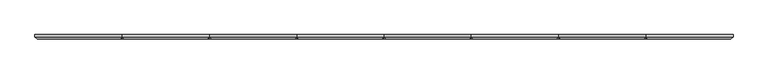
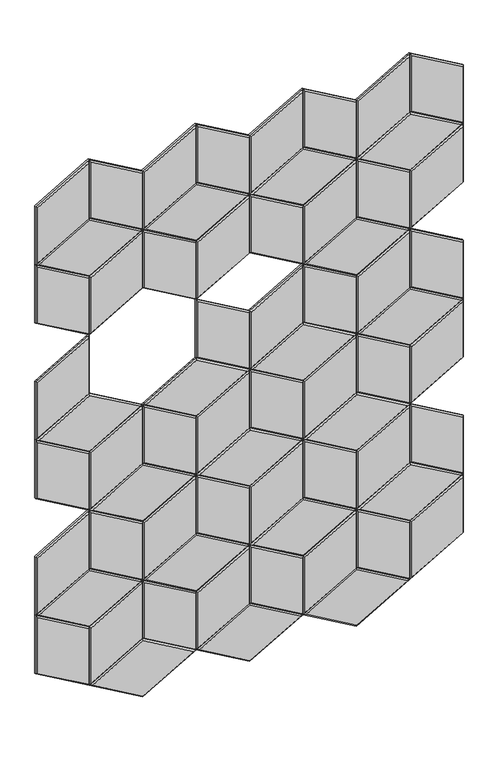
"""IFC4 building model written with IfcOpenShell, lengths in millimetres: proxy geometry, Wall_Cissu 4.3dm."""

from ifc_helpers import new_model, si_unit, origin, place, context, project, spatial, faceted_brep, source, transform, mapped, element, save


def generic_models_3e0c5b4b(model_context):
    return source(origin(), model_context, "Body", "Brep", [
        faceted_brep([(2769.0622415, 6.0, 72.1287686), (2527.0947436, 6.0, 211.8287686), (2769.0622415, 6.0, 351.5287686), (3011.0297393, 6.0, 211.8287686), (2769.0622415, 0.0, 72.1287686), (3011.0297393, 0.0, 211.8287686), (2769.0622415, 0.0, 351.5287686), (2527.0947436, 0.0, 211.8287686), (2769.0622415, -6.0, 344.6005653), (2539.0947436, -6.0, 211.8287686), (2769.0622415, -6.0, 79.0569718), (2999.0297393, -6.0, 211.8287686)], [[[0, 1, 2, 3]], [[4, 0, 3, 5]], [[5, 3, 2, 6]], [[6, 2, 1, 7]], [[7, 1, 0, 4]], [[8, 9, 10, 11]], [[4, 5, 11, 10]], [[5, 6, 8, 11]], [[6, 7, 9, 8]], [[7, 4, 10, 9]]]),
        faceted_brep([(3011.0297393, 6.0, 491.2287686), (3011.0297393, 6.0, 211.8287686), (2769.0622415, 6.0, 351.5287686), (2769.0622415, 6.0, 630.9287686), (3011.0297393, 0.0, 491.2287686), (3011.0297393, 0.0, 211.8287686), (2769.0622415, 0.0, 351.5287686), (2769.0622415, 0.0, 630.9287686), (2775.0622415, -6.0, 354.9928702), (3005.0297393, -6.0, 222.2210734), (3005.0297393, -6.0, 487.764667), (2775.0622415, -6.0, 620.5364637)], [[[0, 1, 2, 3]], [[4, 5, 1, 0]], [[5, 6, 2, 1]], [[6, 7, 3, 2]], [[7, 4, 0, 3]], [[8, 9, 10, 11]], [[4, 10, 9, 5]], [[5, 9, 8, 6]], [[6, 8, 11, 7]], [[7, 11, 10, 4]]]),
        faceted_brep([(2527.0947436, 6.0, 491.2287686), (2769.0622415, 6.0, 630.9287686), (2769.0622415, 6.0, 351.5287686), (2527.0947436, 6.0, 211.8287686), (2527.0947436, 0.0, 491.2287686), (2527.0947436, 0.0, 211.8287686), (2769.0622415, 0.0, 351.5287686), (2769.0622415, 0.0, 630.9287686), (2763.0622415, -6.0, 354.9928702), (2763.0622415, -6.0, 620.5364637), (2533.0947436, -6.0, 487.764667), (2533.0947436, -6.0, 222.2210734)], [[[0, 1, 2, 3]], [[4, 0, 3, 5]], [[5, 3, 2, 6]], [[6, 2, 1, 7]], [[7, 1, 0, 4]], [[8, 9, 10, 11]], [[4, 5, 11, 10]], [[5, 6, 8, 11]], [[6, 7, 9, 8]], [[7, 4, 10, 9]]]),
        faceted_brep([(3011.0297393, 6.0, 491.2287686), (3252.9972371, 6.0, 630.9287686), (3252.9972371, 6.0, 351.5287686), (3011.0297393, 6.0, 211.8287686), (3011.0297393, 0.0, 491.2287686), (3011.0297393, 0.0, 211.8287686), (3252.9972371, 0.0, 351.5287686), (3252.9972371, 0.0, 630.9287686), (3246.9972371, -6.0, 354.9928702), (3246.9972371, -6.0, 620.5364637), (3017.0297393, -6.0, 487.764667), (3017.0297393, -6.0, 222.2210734)], [[[0, 1, 2, 3]], [[4, 0, 3, 5]], [[5, 3, 2, 6]], [[6, 2, 1, 7]], [[7, 1, 0, 4]], [[8, 9, 10, 11]], [[4, 5, 11, 10]], [[5, 6, 8, 11]], [[6, 7, 9, 8]], [[7, 4, 10, 9]]]),
        faceted_brep([(3252.9972371, 6.0, 72.1287686), (3011.0297393, 6.0, 211.8287686), (3252.9972371, 6.0, 351.5287686), (3494.9647349, 6.0, 211.8287686), (3252.9972371, 0.0, 72.1287686), (3011.0297393, 0.0, 211.8287686), (3252.9972371, 0.0, 351.5287686), (3494.9647349, 0.0, 211.8287686), (3252.9972371, -6.0, 344.6005653), (3023.0297393, -6.0, 211.8287686), (3252.9972371, -6.0, 79.0569718), (3482.9647349, -6.0, 211.8287686)], [[[0, 1, 2, 3]], [[4, 5, 1, 0]], [[5, 6, 2, 1]], [[6, 7, 3, 2]], [[7, 4, 0, 3]], [[8, 9, 10, 11]], [[4, 10, 9, 5]], [[5, 9, 8, 6]], [[6, 8, 11, 7]], [[7, 11, 10, 4]]]),
        faceted_brep([(3494.9647349, 6.0, 491.2287686), (3494.9647349, 6.0, 211.8287686), (3252.9972371, 6.0, 351.5287686), (3252.9972371, 6.0, 630.9287686), (3494.9647349, 0.0, 491.2287686), (3494.9647349, 0.0, 211.8287686), (3252.9972371, 0.0, 351.5287686), (3252.9972371, 0.0, 630.9287686), (3258.9972371, -6.0, 354.9928702), (3488.9647349, -6.0, 222.2210734), (3488.9647349, -6.0, 487.764667), (3258.9972371, -6.0, 620.5364637)], [[[0, 1, 2, 3]], [[4, 5, 1, 0]], [[5, 6, 2, 1]], [[6, 7, 3, 2]], [[7, 4, 0, 3]], [[8, 9, 10, 11]], [[4, 10, 9, 5]], [[5, 9, 8, 6]], [[6, 8, 11, 7]], [[7, 11, 10, 4]]]),
        faceted_brep([(3978.8997305, 6.0, 491.2287686), (4220.8672284, 6.0, 630.9287686), (4220.8672284, 6.0, 351.5287686), (3978.8997305, 6.0, 211.8287686), (3978.8997305, 0.0, 491.2287686), (3978.8997305, 0.0, 211.8287686), (4220.8672284, 0.0, 351.5287686), (4220.8672284, 0.0, 630.9287686), (4214.8672284, -6.0, 354.9928702), (4214.8672284, -6.0, 620.5364637), (3984.8997305, -6.0, 487.764667), (3984.8997305, -6.0, 222.2210734)], [[[0, 1, 2, 3]], [[4, 0, 3, 5]], [[5, 3, 2, 6]], [[6, 2, 1, 7]], [[7, 1, 0, 4]], [[8, 9, 10, 11]], [[4, 5, 11, 10]], [[5, 6, 8, 11]], [[6, 7, 9, 8]], [[7, 4, 10, 9]]]),
        faceted_brep([(3736.9322327, 6.0, 72.1287686), (3494.9647349, 6.0, 211.8287686), (3736.9322327, 6.0, 351.5287686), (3978.8997305, 6.0, 211.8287686), (3736.9322327, 0.0, 72.1287686), (3978.8997305, 0.0, 211.8287686), (3736.9322327, 0.0, 351.5287686), (3494.9647349, 0.0, 211.8287686), (3736.9322327, -6.0, 344.6005653), (3506.9647349, -6.0, 211.8287686), (3736.9322327, -6.0, 79.0569718), (3966.8997305, -6.0, 211.8287686)], [[[0, 1, 2, 3]], [[4, 0, 3, 5]], [[5, 3, 2, 6]], [[6, 2, 1, 7]], [[7, 1, 0, 4]], [[8, 9, 10, 11]], [[4, 5, 11, 10]], [[5, 6, 8, 11]], [[6, 7, 9, 8]], [[7, 4, 10, 9]]]),
        faceted_brep([(3978.8997305, 6.0, 491.2287686), (3978.8997305, 6.0, 211.8287686), (3736.9322327, 6.0, 351.5287686), (3736.9322327, 6.0, 630.9287686), (3978.8997305, 0.0, 491.2287686), (3978.8997305, 0.0, 211.8287686), (3736.9322327, 0.0, 351.5287686), (3736.9322327, 0.0, 630.9287686), (3742.9322327, -6.0, 354.9928702), (3972.8997305, -6.0, 222.2210734), (3972.8997305, -6.0, 487.764667), (3742.9322327, -6.0, 620.5364637)], [[[0, 1, 2, 3]], [[4, 5, 1, 0]], [[5, 6, 2, 1]], [[6, 7, 3, 2]], [[7, 4, 0, 3]], [[8, 9, 10, 11]], [[4, 10, 9, 5]], [[5, 9, 8, 6]], [[6, 8, 11, 7]], [[7, 11, 10, 4]]]),
        faceted_brep([(3494.9647349, 6.0, 491.2287686), (3736.9322327, 6.0, 630.9287686), (3736.9322327, 6.0, 351.5287686), (3494.9647349, 6.0, 211.8287686), (3494.9647349, 0.0, 491.2287686), (3494.9647349, 0.0, 211.8287686), (3736.9322327, 0.0, 351.5287686), (3736.9322327, 0.0, 630.9287686), (3730.9322327, -6.0, 354.9928702), (3730.9322327, -6.0, 620.5364637), (3500.9647349, -6.0, 487.764667), (3500.9647349, -6.0, 222.2210734)], [[[0, 1, 2, 3]], [[4, 0, 3, 5]], [[5, 3, 2, 6]], [[6, 2, 1, 7]], [[7, 1, 0, 4]], [[8, 9, 10, 11]], [[4, 5, 11, 10]], [[5, 6, 8, 11]], [[6, 7, 9, 8]], [[7, 4, 10, 9]]]),
        faceted_brep([(2527.0947436, 6.0, 491.2287686), (2527.0947436, 6.0, 211.8287686), (2285.1272458, 6.0, 351.5287686), (2285.1272458, 6.0, 630.9287686), (2527.0947436, 0.0, 491.2287686), (2527.0947436, 0.0, 211.8287686), (2285.1272458, 0.0, 351.5287686), (2285.1272458, 0.0, 630.9287686), (2291.1272458, -6.0, 354.9928702), (2521.0947436, -6.0, 222.2210734), (2521.0947436, -6.0, 487.764667), (2291.1272458, -6.0, 620.5364637)], [[[0, 1, 2, 3]], [[4, 5, 1, 0]], [[5, 6, 2, 1]], [[6, 7, 3, 2]], [[7, 4, 0, 3]], [[8, 9, 10, 11]], [[4, 10, 9, 5]], [[5, 9, 8, 6]], [[6, 8, 11, 7]], [[7, 11, 10, 4]]]),
        faceted_brep([(2527.0576796, 6.037064, 491.1645718), (2285.0901818, 6.037064, 630.8645718), (2527.0576796, 6.037064, 770.5645718), (2769.0251774, 6.037064, 630.8645718), (2527.0576796, 0.037064, 491.1645718), (2769.0251774, 0.037064, 630.8645718), (2527.0576796, 0.037064, 770.5645718), (2285.0901818, 0.037064, 630.8645718), (2527.0576796, -5.962936, 763.6363686), (2297.0901818, -5.962936, 630.8645718), (2527.0576796, -5.962936, 498.0927751), (2757.0251774, -5.962936, 630.8645718)], [[[0, 1, 2, 3]], [[4, 0, 3, 5]], [[5, 3, 2, 6]], [[6, 2, 1, 7]], [[7, 1, 0, 4]], [[8, 9, 10, 11]], [[4, 5, 11, 10]], [[5, 6, 8, 11]], [[6, 7, 9, 8]], [[7, 4, 10, 9]]]),
        faceted_brep([(2769.0251774, 6.037064, 910.2645718), (2769.0251774, 6.037064, 630.8645718), (2527.0576796, 6.037064, 770.5645718), (2527.0576796, 6.037064, 1049.9645718), (2769.0251774, 0.037064, 910.2645718), (2769.0251774, 0.037064, 630.8645718), (2527.0576796, 0.037064, 770.5645718), (2527.0576796, 0.037064, 1049.9645718), (2533.0576796, -5.962936, 774.0286734), (2763.0251774, -5.962936, 641.2568767), (2763.0251774, -5.962936, 906.8004702), (2533.0576796, -5.962936, 1039.572267)], [[[0, 1, 2, 3]], [[4, 5, 1, 0]], [[5, 6, 2, 1]], [[6, 7, 3, 2]], [[7, 4, 0, 3]], [[8, 9, 10, 11]], [[4, 10, 9, 5]], [[5, 9, 8, 6]], [[6, 8, 11, 7]], [[7, 11, 10, 4]]]),
        faceted_brep([(2285.0901818, 6.037064, 910.2645718), (2527.0576796, 6.037064, 1049.9645718), (2527.0576796, 6.037064, 770.5645718), (2285.0901818, 6.037064, 630.8645718), (2285.0901818, 0.037064, 910.2645718), (2285.0901818, 0.037064, 630.8645718), (2527.0576796, 0.037064, 770.5645718), (2527.0576796, 0.037064, 1049.9645718), (2521.0576796, -5.962936, 774.0286734), (2521.0576796, -5.962936, 1039.572267), (2291.0901818, -5.962936, 906.8004702), (2291.0901818, -5.962936, 641.2568767)], [[[0, 1, 2, 3]], [[4, 0, 3, 5]], [[5, 3, 2, 6]], [[6, 2, 1, 7]], [[7, 1, 0, 4]], [[8, 9, 10, 11]], [[4, 5, 11, 10]], [[5, 6, 8, 11]], [[6, 7, 9, 8]], [[7, 4, 10, 9]]]),
        faceted_brep([(2769.0251774, 6.037064, 910.2645718), (3010.9926753, 6.037064, 1049.9645718), (3010.9926753, 6.037064, 770.5645718), (2769.0251774, 6.037064, 630.8645718), (2769.0251774, 0.037064, 910.2645718), (2769.0251774, 0.037064, 630.8645718), (3010.9926753, 0.037064, 770.5645718), (3010.9926753, 0.037064, 1049.9645718), (3004.9926753, -5.962936, 774.0286734), (3004.9926753, -5.962936, 1039.572267), (2775.0251774, -5.962936, 906.8004702), (2775.0251774, -5.962936, 641.2568767)], [[[0, 1, 2, 3]], [[4, 0, 3, 5]], [[5, 3, 2, 6]], [[6, 2, 1, 7]], [[7, 1, 0, 4]], [[8, 9, 10, 11]], [[4, 5, 11, 10]], [[5, 6, 8, 11]], [[6, 7, 9, 8]], [[7, 4, 10, 9]]]),
        faceted_brep([(3010.9926753, 6.037064, 491.1645718), (2769.0251774, 6.037064, 630.8645718), (3010.9926753, 6.037064, 770.5645718), (3252.9601731, 6.037064, 630.8645718), (3010.9926753, 0.037064, 491.1645718), (2769.0251774, 0.037064, 630.8645718), (3010.9926753, 0.037064, 770.5645718), (3252.9601731, 0.037064, 630.8645718), (3010.9926753, -5.962936, 763.6363686), (2781.0251774, -5.962936, 630.8645718), (3010.9926753, -5.962936, 498.0927751), (3240.9601731, -5.962936, 630.8645718)], [[[0, 1, 2, 3]], [[4, 5, 1, 0]], [[5, 6, 2, 1]], [[6, 7, 3, 2]], [[7, 4, 0, 3]], [[8, 9, 10, 11]], [[4, 10, 9, 5]], [[5, 9, 8, 6]], [[6, 8, 11, 7]], [[7, 11, 10, 4]]]),
        faceted_brep([(3252.9601731, 6.037064, 910.2645718), (3252.9601731, 6.037064, 630.8645718), (3010.9926753, 6.037064, 770.5645718), (3010.9926753, 6.037064, 1049.9645718), (3252.9601731, 0.037064, 910.2645718), (3252.9601731, 0.037064, 630.8645718), (3010.9926753, 0.037064, 770.5645718), (3010.9926753, 0.037064, 1049.9645718), (3016.9926753, -5.962936, 774.0286734), (3246.9601731, -5.962936, 641.2568767), (3246.9601731, -5.962936, 906.8004702), (3016.9926753, -5.962936, 1039.572267)], [[[0, 1, 2, 3]], [[4, 5, 1, 0]], [[5, 6, 2, 1]], [[6, 7, 3, 2]], [[7, 4, 0, 3]], [[8, 9, 10, 11]], [[4, 10, 9, 5]], [[5, 9, 8, 6]], [[6, 8, 11, 7]], [[7, 11, 10, 4]]]),
        faceted_brep([(3978.8626665, 6.037064, 491.1645718), (3736.8951687, 6.037064, 630.8645718), (3978.8626665, 6.037064, 770.5645718), (4220.8301644, 6.037064, 630.8645718), (3978.8626665, 0.037064, 491.1645718), (3736.8951687, 0.037064, 630.8645718), (3978.8626665, 0.037064, 770.5645718), (4220.8301644, 0.037064, 630.8645718), (3978.8626665, -5.962936, 763.6363686), (3748.8951687, -5.962936, 630.8645718), (3978.8626665, -5.962936, 498.0927751), (4208.8301644, -5.962936, 630.8645718)], [[[0, 1, 2, 3]], [[4, 5, 1, 0]], [[5, 6, 2, 1]], [[6, 7, 3, 2]], [[7, 4, 0, 3]], [[8, 9, 10, 11]], [[4, 10, 9, 5]], [[5, 9, 8, 6]], [[6, 8, 11, 7]], [[7, 11, 10, 4]]]),
        faceted_brep([(3736.8951687, 6.037064, 910.2645718), (3978.8626665, 6.037064, 1049.9645718), (3978.8626665, 6.037064, 770.5645718), (3736.8951687, 6.037064, 630.8645718), (3736.8951687, 0.037064, 910.2645718), (3736.8951687, 0.037064, 630.8645718), (3978.8626665, 0.037064, 770.5645718), (3978.8626665, 0.037064, 1049.9645718), (3972.8626665, -5.962936, 774.0286734), (3972.8626665, -5.962936, 1039.572267), (3742.8951687, -5.962936, 906.8004702), (3742.8951687, -5.962936, 641.2568767)], [[[0, 1, 2, 3]], [[4, 0, 3, 5]], [[5, 3, 2, 6]], [[6, 2, 1, 7]], [[7, 1, 0, 4]], [[8, 9, 10, 11]], [[4, 5, 11, 10]], [[5, 6, 8, 11]], [[6, 7, 9, 8]], [[7, 4, 10, 9]]]),
        faceted_brep([(4220.8301644, 6.037064, 910.2645718), (4220.8301644, 6.037064, 630.8645718), (3978.8626665, 6.037064, 770.5645718), (3978.8626665, 6.037064, 1049.9645718), (4220.8301644, 0.037064, 910.2645718), (4220.8301644, 0.037064, 630.8645718), (3978.8626665, 0.037064, 770.5645718), (3978.8626665, 0.037064, 1049.9645718), (3984.8626665, -5.962936, 774.0286734), (4214.8301644, -5.962936, 641.2568767), (4214.8301644, -5.962936, 906.8004702), (3984.8626665, -5.962936, 1039.572267)], [[[0, 1, 2, 3]], [[4, 5, 1, 0]], [[5, 6, 2, 1]], [[6, 7, 3, 2]], [[7, 4, 0, 3]], [[8, 9, 10, 11]], [[4, 10, 9, 5]], [[5, 9, 8, 6]], [[6, 8, 11, 7]], [[7, 11, 10, 4]]]),
        faceted_brep([(3494.9276709, 6.037064, 491.1645718), (3252.9601731, 6.037064, 630.8645718), (3494.9276709, 6.037064, 770.5645718), (3736.8951687, 6.037064, 630.8645718), (3494.9276709, 0.037064, 491.1645718), (3736.8951687, 0.037064, 630.8645718), (3494.9276709, 0.037064, 770.5645718), (3252.9601731, 0.037064, 630.8645718), (3494.9276709, -5.962936, 763.6363686), (3264.9601731, -5.962936, 630.8645718), (3494.9276709, -5.962936, 498.0927751), (3724.8951687, -5.962936, 630.8645718)], [[[0, 1, 2, 3]], [[4, 0, 3, 5]], [[5, 3, 2, 6]], [[6, 2, 1, 7]], [[7, 1, 0, 4]], [[8, 9, 10, 11]], [[4, 5, 11, 10]], [[5, 6, 8, 11]], [[6, 7, 9, 8]], [[7, 4, 10, 9]]]),
        faceted_brep([(3736.8951687, 6.037064, 910.2645718), (3736.8951687, 6.037064, 630.8645718), (3494.9276709, 6.037064, 770.5645718), (3494.9276709, 6.037064, 1049.9645718), (3736.8951687, 0.037064, 910.2645718), (3736.8951687, 0.037064, 630.8645718), (3494.9276709, 0.037064, 770.5645718), (3494.9276709, 0.037064, 1049.9645718), (3500.9276709, -5.962936, 774.0286734), (3730.8951687, -5.962936, 641.2568767), (3730.8951687, -5.962936, 906.8004702), (3500.9276709, -5.962936, 1039.572267)], [[[0, 1, 2, 3]], [[4, 5, 1, 0]], [[5, 6, 2, 1]], [[6, 7, 3, 2]], [[7, 4, 0, 3]], [[8, 9, 10, 11]], [[4, 10, 9, 5]], [[5, 9, 8, 6]], [[6, 8, 11, 7]], [[7, 11, 10, 4]]]),
        faceted_brep([(3252.9601731, 6.037064, 910.2645718), (3494.9276709, 6.037064, 1049.9645718), (3494.9276709, 6.037064, 770.5645718), (3252.9601731, 6.037064, 630.8645718), (3252.9601731, 0.037064, 910.2645718), (3252.9601731, 0.037064, 630.8645718), (3494.9276709, 0.037064, 770.5645718), (3494.9276709, 0.037064, 1049.9645718), (3488.9276709, -5.962936, 774.0286734), (3488.9276709, -5.962936, 1039.572267), (3258.9601731, -5.962936, 906.8004702), (3258.9601731, -5.962936, 641.2568767)], [[[0, 1, 2, 3]], [[4, 0, 3, 5]], [[5, 3, 2, 6]], [[6, 2, 1, 7]], [[7, 1, 0, 4]], [[8, 9, 10, 11]], [[4, 5, 11, 10]], [[5, 6, 8, 11]], [[6, 7, 9, 8]], [[7, 4, 10, 9]]]),
        faceted_brep([(2769.0251774, 6.037064, 910.2645718), (2527.0576796, 6.037064, 1049.9645718), (2769.0251774, 6.037064, 1189.6645718), (3010.9926753, 6.037064, 1049.9645718), (2769.0251774, 0.037064, 910.2645718), (3010.9926753, 0.037064, 1049.9645718), (2769.0251774, 0.037064, 1189.6645718), (2527.0576796, 0.037064, 1049.9645718), (2769.0251774, -5.962936, 1182.7363686), (2539.0576796, -5.962936, 1049.9645718), (2769.0251774, -5.962936, 917.1927751), (2998.9926753, -5.962936, 1049.9645718)], [[[0, 1, 2, 3]], [[4, 0, 3, 5]], [[5, 3, 2, 6]], [[6, 2, 1, 7]], [[7, 1, 0, 4]], [[8, 9, 10, 11]], [[4, 5, 11, 10]], [[5, 6, 8, 11]], [[6, 7, 9, 8]], [[7, 4, 10, 9]]]),
        faceted_brep([(3010.9926753, 6.037064, 1329.3645718), (3010.9926753, 6.037064, 1049.9645718), (2769.0251774, 6.037064, 1189.6645718), (2769.0251774, 6.037064, 1469.0645718), (3010.9926753, 0.037064, 1329.3645718), (3010.9926753, 0.037064, 1049.9645718), (2769.0251774, 0.037064, 1189.6645718), (2769.0251774, 0.037064, 1469.0645718), (2775.0251774, -5.962936, 1193.1286734), (3004.9926753, -5.962936, 1060.3568767), (3004.9926753, -5.962936, 1325.9004702), (2775.0251774, -5.962936, 1458.672267)], [[[0, 1, 2, 3]], [[4, 5, 1, 0]], [[5, 6, 2, 1]], [[6, 7, 3, 2]], [[7, 4, 0, 3]], [[8, 9, 10, 11]], [[4, 10, 9, 5]], [[5, 9, 8, 6]], [[6, 8, 11, 7]], [[7, 11, 10, 4]]]),
        faceted_brep([(2527.0576796, 6.037064, 1329.3645718), (2769.0251774, 6.037064, 1469.0645718), (2769.0251774, 6.037064, 1189.6645718), (2527.0576796, 6.037064, 1049.9645718), (2527.0576796, 0.037064, 1329.3645718), (2527.0576796, 0.037064, 1049.9645718), (2769.0251774, 0.037064, 1189.6645718), (2769.0251774, 0.037064, 1469.0645718), (2763.0251774, -5.962936, 1193.1286734), (2763.0251774, -5.962936, 1458.672267), (2533.0576796, -5.962936, 1325.9004702), (2533.0576796, -5.962936, 1060.3568767)], [[[0, 1, 2, 3]], [[4, 0, 3, 5]], [[5, 3, 2, 6]], [[6, 2, 1, 7]], [[7, 1, 0, 4]], [[8, 9, 10, 11]], [[4, 5, 11, 10]], [[5, 6, 8, 11]], [[6, 7, 9, 8]], [[7, 4, 10, 9]]]),
        faceted_brep([(3010.9926753, 6.037064, 1329.3645718), (3252.9601731, 6.037064, 1469.0645718), (3252.9601731, 6.037064, 1189.6645718), (3010.9926753, 6.037064, 1049.9645718), (3010.9926753, 0.037064, 1329.3645718), (3010.9926753, 0.037064, 1049.9645718), (3252.9601731, 0.037064, 1189.6645718), (3252.9601731, 0.037064, 1469.0645718), (3246.9601731, -5.962936, 1193.1286734), (3246.9601731, -5.962936, 1458.672267), (3016.9926753, -5.962936, 1325.9004702), (3016.9926753, -5.962936, 1060.3568767)], [[[0, 1, 2, 3]], [[4, 0, 3, 5]], [[5, 3, 2, 6]], [[6, 2, 1, 7]], [[7, 1, 0, 4]], [[8, 9, 10, 11]], [[4, 5, 11, 10]], [[5, 6, 8, 11]], [[6, 7, 9, 8]], [[7, 4, 10, 9]]]),
        faceted_brep([(3252.9601731, 6.037064, 910.2645718), (3010.9926753, 6.037064, 1049.9645718), (3252.9601731, 6.037064, 1189.6645718), (3494.9276709, 6.037064, 1049.9645718), (3252.9601731, 0.037064, 910.2645718), (3010.9926753, 0.037064, 1049.9645718), (3252.9601731, 0.037064, 1189.6645718), (3494.9276709, 0.037064, 1049.9645718), (3252.9601731, -5.962936, 1182.7363686), (3022.9926753, -5.962936, 1049.9645718), (3252.9601731, -5.962936, 917.1927751), (3482.9276709, -5.962936, 1049.9645718)], [[[0, 1, 2, 3]], [[4, 5, 1, 0]], [[5, 6, 2, 1]], [[6, 7, 3, 2]], [[7, 4, 0, 3]], [[8, 9, 10, 11]], [[4, 10, 9, 5]], [[5, 9, 8, 6]], [[6, 8, 11, 7]], [[7, 11, 10, 4]]]),
        faceted_brep([(3494.9276709, 6.037064, 1329.3645718), (3494.9276709, 6.037064, 1049.9645718), (3252.9601731, 6.037064, 1189.6645718), (3252.9601731, 6.037064, 1469.0645718), (3494.9276709, 0.037064, 1329.3645718), (3494.9276709, 0.037064, 1049.9645718), (3252.9601731, 0.037064, 1189.6645718), (3252.9601731, 0.037064, 1469.0645718), (3258.9601731, -5.962936, 1193.1286734), (3488.9276709, -5.962936, 1060.3568767), (3488.9276709, -5.962936, 1325.9004702), (3258.9601731, -5.962936, 1458.672267)], [[[0, 1, 2, 3]], [[4, 5, 1, 0]], [[5, 6, 2, 1]], [[6, 7, 3, 2]], [[7, 4, 0, 3]], [[8, 9, 10, 11]], [[4, 10, 9, 5]], [[5, 9, 8, 6]], [[6, 8, 11, 7]], [[7, 11, 10, 4]]]),
        faceted_brep([(3978.8626665, 6.037064, 1329.3645718), (4220.8301644, 6.037064, 1469.0645718), (4220.8301644, 6.037064, 1189.6645718), (3978.8626665, 6.037064, 1049.9645718), (3978.8626665, 0.037064, 1329.3645718), (3978.8626665, 0.037064, 1049.9645718), (4220.8301644, 0.037064, 1189.6645718), (4220.8301644, 0.037064, 1469.0645718), (4214.8301644, -5.962936, 1193.1286734), (4214.8301644, -5.962936, 1458.672267), (3984.8626665, -5.962936, 1325.9004702), (3984.8626665, -5.962936, 1060.3568767)], [[[0, 1, 2, 3]], [[4, 0, 3, 5]], [[5, 3, 2, 6]], [[6, 2, 1, 7]], [[7, 1, 0, 4]], [[8, 9, 10, 11]], [[4, 5, 11, 10]], [[5, 6, 8, 11]], [[6, 7, 9, 8]], [[7, 4, 10, 9]]]),
        faceted_brep([(3736.8951687, 6.037064, 910.2645718), (3494.9276709, 6.037064, 1049.9645718), (3736.8951687, 6.037064, 1189.6645718), (3978.8626665, 6.037064, 1049.9645718), (3736.8951687, 0.037064, 910.2645718), (3978.8626665, 0.037064, 1049.9645718), (3736.8951687, 0.037064, 1189.6645718), (3494.9276709, 0.037064, 1049.9645718), (3736.8951687, -5.962936, 1182.7363686), (3506.9276709, -5.962936, 1049.9645718), (3736.8951687, -5.962936, 917.1927751), (3966.8626665, -5.962936, 1049.9645718)], [[[0, 1, 2, 3]], [[4, 0, 3, 5]], [[5, 3, 2, 6]], [[6, 2, 1, 7]], [[7, 1, 0, 4]], [[8, 9, 10, 11]], [[4, 5, 11, 10]], [[5, 6, 8, 11]], [[6, 7, 9, 8]], [[7, 4, 10, 9]]]),
        faceted_brep([(3978.8626665, 6.037064, 1329.3645718), (3978.8626665, 6.037064, 1049.9645718), (3736.8951687, 6.037064, 1189.6645718), (3736.8951687, 6.037064, 1469.0645718), (3978.8626665, 0.037064, 1329.3645718), (3978.8626665, 0.037064, 1049.9645718), (3736.8951687, 0.037064, 1189.6645718), (3736.8951687, 0.037064, 1469.0645718), (3742.8951687, -5.962936, 1193.1286734), (3972.8626665, -5.962936, 1060.3568767), (3972.8626665, -5.962936, 1325.9004702), (3742.8951687, -5.962936, 1458.672267)], [[[0, 1, 2, 3]], [[4, 5, 1, 0]], [[5, 6, 2, 1]], [[6, 7, 3, 2]], [[7, 4, 0, 3]], [[8, 9, 10, 11]], [[4, 10, 9, 5]], [[5, 9, 8, 6]], [[6, 8, 11, 7]], [[7, 11, 10, 4]]]),
        faceted_brep([(3494.9276709, 6.037064, 1329.3645718), (3736.8951687, 6.037064, 1469.0645718), (3736.8951687, 6.037064, 1189.6645718), (3494.9276709, 6.037064, 1049.9645718), (3494.9276709, 0.037064, 1329.3645718), (3494.9276709, 0.037064, 1049.9645718), (3736.8951687, 0.037064, 1189.6645718), (3736.8951687, 0.037064, 1469.0645718), (3730.8951687, -5.962936, 1193.1286734), (3730.8951687, -5.962936, 1458.672267), (3500.9276709, -5.962936, 1325.9004702), (3500.9276709, -5.962936, 1060.3568767)], [[[0, 1, 2, 3]], [[4, 0, 3, 5]], [[5, 3, 2, 6]], [[6, 2, 1, 7]], [[7, 1, 0, 4]], [[8, 9, 10, 11]], [[4, 5, 11, 10]], [[5, 6, 8, 11]], [[6, 7, 9, 8]], [[7, 4, 10, 9]]]),
        faceted_brep([(2527.0576796, 6.037064, 1329.3645718), (2527.0576796, 6.037064, 1049.9645718), (2285.0901818, 6.037064, 1189.6645718), (2285.0901818, 6.037064, 1469.0645718), (2527.0576796, 0.037064, 1329.3645718), (2527.0576796, 0.037064, 1049.9645718), (2285.0901818, 0.037064, 1189.6645718), (2285.0901818, 0.037064, 1469.0645718), (2291.0901818, -5.962936, 1193.1286734), (2521.0576796, -5.962936, 1060.3568767), (2521.0576796, -5.962936, 1325.9004702), (2291.0901818, -5.962936, 1458.672267)], [[[0, 1, 2, 3]], [[4, 5, 1, 0]], [[5, 6, 2, 1]], [[6, 7, 3, 2]], [[7, 4, 0, 3]], [[8, 9, 10, 11]], [[4, 10, 9, 5]], [[5, 9, 8, 6]], [[6, 8, 11, 7]], [[7, 11, 10, 4]]]),
        faceted_brep([(2527.0576796, 6.037064, 1329.3645718), (2285.0901818, 6.037064, 1469.0645718), (2527.0576796, 6.037064, 1608.7645718), (2769.0251774, 6.037064, 1469.0645718), (2527.0576796, 0.037064, 1329.3645718), (2769.0251774, 0.037064, 1469.0645718), (2527.0576796, 0.037064, 1608.7645718), (2285.0901818, 0.037064, 1469.0645718), (2527.0576796, -5.962936, 1601.8363686), (2297.0901818, -5.962936, 1469.0645718), (2527.0576796, -5.962936, 1336.2927751), (2757.0251774, -5.962936, 1469.0645718)], [[[0, 1, 2, 3]], [[4, 0, 3, 5]], [[5, 3, 2, 6]], [[6, 2, 1, 7]], [[7, 1, 0, 4]], [[8, 9, 10, 11]], [[4, 5, 11, 10]], [[5, 6, 8, 11]], [[6, 7, 9, 8]], [[7, 4, 10, 9]]]),
        faceted_brep([(2285.0901818, 6.037064, 1748.4645718), (2527.0576796, 6.037064, 1888.1645718), (2527.0576796, 6.037064, 1608.7645718), (2285.0901818, 6.037064, 1469.0645718), (2285.0901818, 0.037064, 1748.4645718), (2285.0901818, 0.037064, 1469.0645718), (2527.0576796, 0.037064, 1608.7645718), (2527.0576796, 0.037064, 1888.1645718), (2521.0576796, -5.962936, 1612.2286734), (2521.0576796, -5.962936, 1877.772267), (2291.0901818, -5.962936, 1745.0004702), (2291.0901818, -5.962936, 1479.4568767)], [[[0, 1, 2, 3]], [[4, 0, 3, 5]], [[5, 3, 2, 6]], [[6, 2, 1, 7]], [[7, 1, 0, 4]], [[8, 9, 10, 11]], [[4, 5, 11, 10]], [[5, 6, 8, 11]], [[6, 7, 9, 8]], [[7, 4, 10, 9]]]),
        faceted_brep([(3010.9926753, 6.037064, 1329.3645718), (2769.0251774, 6.037064, 1469.0645718), (3010.9926753, 6.037064, 1608.7645718), (3252.9601731, 6.037064, 1469.0645718), (3010.9926753, 0.037064, 1329.3645718), (2769.0251774, 0.037064, 1469.0645718), (3010.9926753, 0.037064, 1608.7645718), (3252.9601731, 0.037064, 1469.0645718), (3010.9926753, -5.962936, 1601.8363686), (2781.0251774, -5.962936, 1469.0645718), (3010.9926753, -5.962936, 1336.2927751), (3240.9601731, -5.962936, 1469.0645718)], [[[0, 1, 2, 3]], [[4, 5, 1, 0]], [[5, 6, 2, 1]], [[6, 7, 3, 2]], [[7, 4, 0, 3]], [[8, 9, 10, 11]], [[4, 10, 9, 5]], [[5, 9, 8, 6]], [[6, 8, 11, 7]], [[7, 11, 10, 4]]]),
        faceted_brep([(3252.9601731, 6.037064, 1748.4645718), (3252.9601731, 6.037064, 1469.0645718), (3010.9926753, 6.037064, 1608.7645718), (3010.9926753, 6.037064, 1888.1645718), (3252.9601731, 0.037064, 1748.4645718), (3252.9601731, 0.037064, 1469.0645718), (3010.9926753, 0.037064, 1608.7645718), (3010.9926753, 0.037064, 1888.1645718), (3016.9926753, -5.962936, 1612.2286734), (3246.9601731, -5.962936, 1479.4568767), (3246.9601731, -5.962936, 1745.0004702), (3016.9926753, -5.962936, 1877.772267)], [[[0, 1, 2, 3]], [[4, 5, 1, 0]], [[5, 6, 2, 1]], [[6, 7, 3, 2]], [[7, 4, 0, 3]], [[8, 9, 10, 11]], [[4, 10, 9, 5]], [[5, 9, 8, 6]], [[6, 8, 11, 7]], [[7, 11, 10, 4]]]),
        faceted_brep([(3978.8626665, 6.037064, 1329.3645718), (3736.8951687, 6.037064, 1469.0645718), (3978.8626665, 6.037064, 1608.7645718), (4220.8301644, 6.037064, 1469.0645718), (3978.8626665, 0.037064, 1329.3645718), (3736.8951687, 0.037064, 1469.0645718), (3978.8626665, 0.037064, 1608.7645718), (4220.8301644, 0.037064, 1469.0645718), (3978.8626665, -5.962936, 1601.8363686), (3748.8951687, -5.962936, 1469.0645718), (3978.8626665, -5.962936, 1336.2927751), (4208.8301644, -5.962936, 1469.0645718)], [[[0, 1, 2, 3]], [[4, 5, 1, 0]], [[5, 6, 2, 1]], [[6, 7, 3, 2]], [[7, 4, 0, 3]], [[8, 9, 10, 11]], [[4, 10, 9, 5]], [[5, 9, 8, 6]], [[6, 8, 11, 7]], [[7, 11, 10, 4]]]),
        faceted_brep([(3736.8951687, 6.037064, 1748.4645718), (3978.8626665, 6.037064, 1888.1645718), (3978.8626665, 6.037064, 1608.7645718), (3736.8951687, 6.037064, 1469.0645718), (3736.8951687, 0.037064, 1748.4645718), (3736.8951687, 0.037064, 1469.0645718), (3978.8626665, 0.037064, 1608.7645718), (3978.8626665, 0.037064, 1888.1645718), (3972.8626665, -5.962936, 1612.2286734), (3972.8626665, -5.962936, 1877.772267), (3742.8951687, -5.962936, 1745.0004702), (3742.8951687, -5.962936, 1479.4568767)], [[[0, 1, 2, 3]], [[4, 0, 3, 5]], [[5, 3, 2, 6]], [[6, 2, 1, 7]], [[7, 1, 0, 4]], [[8, 9, 10, 11]], [[4, 5, 11, 10]], [[5, 6, 8, 11]], [[6, 7, 9, 8]], [[7, 4, 10, 9]]]),
        faceted_brep([(4220.8301644, 6.037064, 1748.4645718), (4220.8301644, 6.037064, 1469.0645718), (3978.8626665, 6.037064, 1608.7645718), (3978.8626665, 6.037064, 1888.1645718), (4220.8301644, 0.037064, 1748.4645718), (4220.8301644, 0.037064, 1469.0645718), (3978.8626665, 0.037064, 1608.7645718), (3978.8626665, 0.037064, 1888.1645718), (3984.8626665, -5.962936, 1612.2286734), (4214.8301644, -5.962936, 1479.4568767), (4214.8301644, -5.962936, 1745.0004702), (3984.8626665, -5.962936, 1877.772267)], [[[0, 1, 2, 3]], [[4, 5, 1, 0]], [[5, 6, 2, 1]], [[6, 7, 3, 2]], [[7, 4, 0, 3]], [[8, 9, 10, 11]], [[4, 10, 9, 5]], [[5, 9, 8, 6]], [[6, 8, 11, 7]], [[7, 11, 10, 4]]]),
        faceted_brep([(3494.9276709, 6.037064, 1329.3645718), (3252.9601731, 6.037064, 1469.0645718), (3494.9276709, 6.037064, 1608.7645718), (3736.8951687, 6.037064, 1469.0645718), (3494.9276709, 0.037064, 1329.3645718), (3736.8951687, 0.037064, 1469.0645718), (3494.9276709, 0.037064, 1608.7645718), (3252.9601731, 0.037064, 1469.0645718), (3494.9276709, -5.962936, 1601.8363686), (3264.9601731, -5.962936, 1469.0645718), (3494.9276709, -5.962936, 1336.2927751), (3724.8951687, -5.962936, 1469.0645718)], [[[0, 1, 2, 3]], [[4, 0, 3, 5]], [[5, 3, 2, 6]], [[6, 2, 1, 7]], [[7, 1, 0, 4]], [[8, 9, 10, 11]], [[4, 5, 11, 10]], [[5, 6, 8, 11]], [[6, 7, 9, 8]], [[7, 4, 10, 9]]]),
        faceted_brep([(3736.8951687, 6.037064, 1748.4645718), (3736.8951687, 6.037064, 1469.0645718), (3494.9276709, 6.037064, 1608.7645718), (3494.9276709, 6.037064, 1888.1645718), (3736.8951687, 0.037064, 1748.4645718), (3736.8951687, 0.037064, 1469.0645718), (3494.9276709, 0.037064, 1608.7645718), (3494.9276709, 0.037064, 1888.1645718), (3500.9276709, -5.962936, 1612.2286734), (3730.8951687, -5.962936, 1479.4568767), (3730.8951687, -5.962936, 1745.0004702), (3500.9276709, -5.962936, 1877.772267)], [[[0, 1, 2, 3]], [[4, 5, 1, 0]], [[5, 6, 2, 1]], [[6, 7, 3, 2]], [[7, 4, 0, 3]], [[8, 9, 10, 11]], [[4, 10, 9, 5]], [[5, 9, 8, 6]], [[6, 8, 11, 7]], [[7, 11, 10, 4]]]),
        faceted_brep([(3252.9601731, 6.037064, 1748.4645718), (3494.9276709, 6.037064, 1888.1645718), (3494.9276709, 6.037064, 1608.7645718), (3252.9601731, 6.037064, 1469.0645718), (3252.9601731, 0.037064, 1748.4645718), (3252.9601731, 0.037064, 1469.0645718), (3494.9276709, 0.037064, 1608.7645718), (3494.9276709, 0.037064, 1888.1645718), (3488.9276709, -5.962936, 1612.2286734), (3488.9276709, -5.962936, 1877.772267), (3258.9601731, -5.962936, 1745.0004702), (3258.9601731, -5.962936, 1479.4568767)], [[[0, 1, 2, 3]], [[4, 0, 3, 5]], [[5, 3, 2, 6]], [[6, 2, 1, 7]], [[7, 1, 0, 4]], [[8, 9, 10, 11]], [[4, 5, 11, 10]], [[5, 6, 8, 11]], [[6, 7, 9, 8]], [[7, 4, 10, 9]]]),
        faceted_brep([(3010.9926753, 6.037064, 2167.5645718), (3010.9926753, 6.037064, 1888.1645718), (2769.0251774, 6.037064, 2027.8645718), (2769.0251774, 6.037064, 2307.2645718), (3010.9926753, 0.037064, 2167.5645718), (3010.9926753, 0.037064, 1888.1645718), (2769.0251774, 0.037064, 2027.8645718), (2769.0251774, 0.037064, 2307.2645718), (2775.0251774, -5.962936, 2031.3286734), (3004.9926753, -5.962936, 1898.5568767), (3004.9926753, -5.962936, 2164.1004702), (2775.0251774, -5.962936, 2296.872267)], [[[0, 1, 2, 3]], [[4, 5, 1, 0]], [[5, 6, 2, 1]], [[6, 7, 3, 2]], [[7, 4, 0, 3]], [[8, 9, 10, 11]], [[4, 10, 9, 5]], [[5, 9, 8, 6]], [[6, 8, 11, 7]], [[7, 11, 10, 4]]]),
        faceted_brep([(2527.0576796, 6.037064, 2167.5645718), (2769.0251774, 6.037064, 2307.2645718), (2769.0251774, 6.037064, 2027.8645718), (2527.0576796, 6.037064, 1888.1645718), (2527.0576796, 0.037064, 2167.5645718), (2527.0576796, 0.037064, 1888.1645718), (2769.0251774, 0.037064, 2027.8645718), (2769.0251774, 0.037064, 2307.2645718), (2763.0251774, -5.962936, 2031.3286734), (2763.0251774, -5.962936, 2296.872267), (2533.0576796, -5.962936, 2164.1004702), (2533.0576796, -5.962936, 1898.5568767)], [[[0, 1, 2, 3]], [[4, 0, 3, 5]], [[5, 3, 2, 6]], [[6, 2, 1, 7]], [[7, 1, 0, 4]], [[8, 9, 10, 11]], [[4, 5, 11, 10]], [[5, 6, 8, 11]], [[6, 7, 9, 8]], [[7, 4, 10, 9]]]),
        faceted_brep([(3010.9926753, 6.037064, 2167.5645718), (3252.9601731, 6.037064, 2307.2645718), (3252.9601731, 6.037064, 2027.8645718), (3010.9926753, 6.037064, 1888.1645718), (3010.9926753, 0.037064, 2167.5645718), (3010.9926753, 0.037064, 1888.1645718), (3252.9601731, 0.037064, 2027.8645718), (3252.9601731, 0.037064, 2307.2645718), (3246.9601731, -5.962936, 2031.3286734), (3246.9601731, -5.962936, 2296.872267), (3016.9926753, -5.962936, 2164.1004702), (3016.9926753, -5.962936, 1898.5568767)], [[[0, 1, 2, 3]], [[4, 0, 3, 5]], [[5, 3, 2, 6]], [[6, 2, 1, 7]], [[7, 1, 0, 4]], [[8, 9, 10, 11]], [[4, 5, 11, 10]], [[5, 6, 8, 11]], [[6, 7, 9, 8]], [[7, 4, 10, 9]]]),
        faceted_brep([(3494.9276709, 6.037064, 2167.5645718), (3494.9276709, 6.037064, 1888.1645718), (3252.9601731, 6.037064, 2027.8645718), (3252.9601731, 6.037064, 2307.2645718), (3494.9276709, 0.037064, 2167.5645718), (3494.9276709, 0.037064, 1888.1645718), (3252.9601731, 0.037064, 2027.8645718), (3252.9601731, 0.037064, 2307.2645718), (3258.9601731, -5.962936, 2031.3286734), (3488.9276709, -5.962936, 1898.5568767), (3488.9276709, -5.962936, 2164.1004702), (3258.9601731, -5.962936, 2296.872267)], [[[0, 1, 2, 3]], [[4, 5, 1, 0]], [[5, 6, 2, 1]], [[6, 7, 3, 2]], [[7, 4, 0, 3]], [[8, 9, 10, 11]], [[4, 10, 9, 5]], [[5, 9, 8, 6]], [[6, 8, 11, 7]], [[7, 11, 10, 4]]]),
        faceted_brep([(3978.8626665, 6.037064, 2167.5645718), (4220.8301644, 6.037064, 2307.2645718), (4220.8301644, 6.037064, 2027.8645718), (3978.8626665, 6.037064, 1888.1645718), (3978.8626665, 0.037064, 2167.5645718), (3978.8626665, 0.037064, 1888.1645718), (4220.8301644, 0.037064, 2027.8645718), (4220.8301644, 0.037064, 2307.2645718), (4214.8301644, -5.962936, 2031.3286734), (4214.8301644, -5.962936, 2296.872267), (3984.8626665, -5.962936, 2164.1004702), (3984.8626665, -5.962936, 1898.5568767)], [[[0, 1, 2, 3]], [[4, 0, 3, 5]], [[5, 3, 2, 6]], [[6, 2, 1, 7]], [[7, 1, 0, 4]], [[8, 9, 10, 11]], [[4, 5, 11, 10]], [[5, 6, 8, 11]], [[6, 7, 9, 8]], [[7, 4, 10, 9]]]),
        faceted_brep([(3736.8951687, 6.037064, 1748.4645718), (3494.9276709, 6.037064, 1888.1645718), (3736.8951687, 6.037064, 2027.8645718), (3978.8626665, 6.037064, 1888.1645718), (3736.8951687, 0.037064, 1748.4645718), (3978.8626665, 0.037064, 1888.1645718), (3736.8951687, 0.037064, 2027.8645718), (3494.9276709, 0.037064, 1888.1645718), (3736.8951687, -5.962936, 2020.9363686), (3506.9276709, -5.962936, 1888.1645718), (3736.8951687, -5.962936, 1755.3927751), (3966.8626665, -5.962936, 1888.1645718)], [[[0, 1, 2, 3]], [[4, 0, 3, 5]], [[5, 3, 2, 6]], [[6, 2, 1, 7]], [[7, 1, 0, 4]], [[8, 9, 10, 11]], [[4, 5, 11, 10]], [[5, 6, 8, 11]], [[6, 7, 9, 8]], [[7, 4, 10, 9]]]),
        faceted_brep([(3978.8626665, 6.037064, 2167.5645718), (3978.8626665, 6.037064, 1888.1645718), (3736.8951687, 6.037064, 2027.8645718), (3736.8951687, 6.037064, 2307.2645718), (3978.8626665, 0.037064, 2167.5645718), (3978.8626665, 0.037064, 1888.1645718), (3736.8951687, 0.037064, 2027.8645718), (3736.8951687, 0.037064, 2307.2645718), (3742.8951687, -5.962936, 2031.3286734), (3972.8626665, -5.962936, 1898.5568767), (3972.8626665, -5.962936, 2164.1004702), (3742.8951687, -5.962936, 2296.872267)], [[[0, 1, 2, 3]], [[4, 5, 1, 0]], [[5, 6, 2, 1]], [[6, 7, 3, 2]], [[7, 4, 0, 3]], [[8, 9, 10, 11]], [[4, 10, 9, 5]], [[5, 9, 8, 6]], [[6, 8, 11, 7]], [[7, 11, 10, 4]]]),
        faceted_brep([(3494.9276709, 6.037064, 2167.5645718), (3736.8951687, 6.037064, 2307.2645718), (3736.8951687, 6.037064, 2027.8645718), (3494.9276709, 6.037064, 1888.1645718), (3494.9276709, 0.037064, 2167.5645718), (3494.9276709, 0.037064, 1888.1645718), (3736.8951687, 0.037064, 2027.8645718), (3736.8951687, 0.037064, 2307.2645718), (3730.8951687, -5.962936, 2031.3286734), (3730.8951687, -5.962936, 2296.872267), (3500.9276709, -5.962936, 2164.1004702), (3500.9276709, -5.962936, 1898.5568767)], [[[0, 1, 2, 3]], [[4, 0, 3, 5]], [[5, 3, 2, 6]], [[6, 2, 1, 7]], [[7, 1, 0, 4]], [[8, 9, 10, 11]], [[4, 5, 11, 10]], [[5, 6, 8, 11]], [[6, 7, 9, 8]], [[7, 4, 10, 9]]]),
        faceted_brep([(2527.0576796, 6.037064, 2167.5645718), (2527.0576796, 6.037064, 1888.1645718), (2285.0901818, 6.037064, 2027.8645718), (2285.0901818, 6.037064, 2307.2645718), (2527.0576796, 0.037064, 2167.5645718), (2527.0576796, 0.037064, 1888.1645718), (2285.0901818, 0.037064, 2027.8645718), (2285.0901818, 0.037064, 2307.2645718), (2291.0901818, -5.962936, 2031.3286734), (2521.0576796, -5.962936, 1898.5568767), (2521.0576796, -5.962936, 2164.1004702), (2291.0901818, -5.962936, 2296.872267)], [[[0, 1, 2, 3]], [[4, 5, 1, 0]], [[5, 6, 2, 1]], [[6, 7, 3, 2]], [[7, 4, 0, 3]], [[8, 9, 10, 11]], [[4, 10, 9, 5]], [[5, 9, 8, 6]], [[6, 8, 11, 7]], [[7, 11, 10, 4]]]),
        faceted_brep([(2527.0206156, 6.074128, 2167.5003751), (2285.0531178, 6.074128, 2307.2003751), (2527.0206156, 6.074128, 2446.9003751), (2768.9881134, 6.074128, 2307.2003751), (2527.0206156, 0.074128, 2167.5003751), (2768.9881134, 0.074128, 2307.2003751), (2527.0206156, 0.074128, 2446.9003751), (2285.0531178, 0.074128, 2307.2003751), (2527.0206156, -5.925872, 2439.9721718), (2297.0531178, -5.925872, 2307.2003751), (2527.0206156, -5.925872, 2174.4285783), (2756.9881134, -5.925872, 2307.2003751)], [[[0, 1, 2, 3]], [[4, 0, 3, 5]], [[5, 3, 2, 6]], [[6, 2, 1, 7]], [[7, 1, 0, 4]], [[8, 9, 10, 11]], [[4, 5, 11, 10]], [[5, 6, 8, 11]], [[6, 7, 9, 8]], [[7, 4, 10, 9]]]),
        faceted_brep([(2768.9881134, 6.074128, 2586.6003751), (2768.9881134, 6.074128, 2307.2003751), (2527.0206156, 6.074128, 2446.9003751), (2527.0206156, 6.074128, 2726.3003751), (2768.9881134, 0.074128, 2586.6003751), (2768.9881134, 0.074128, 2307.2003751), (2527.0206156, 0.074128, 2446.9003751), (2527.0206156, 0.074128, 2726.3003751), (2533.0206156, -5.925872, 2450.3644767), (2762.9881134, -5.925872, 2317.5926799), (2762.9881134, -5.925872, 2583.1362735), (2533.0206156, -5.925872, 2715.9080702)], [[[0, 1, 2, 3]], [[4, 5, 1, 0]], [[5, 6, 2, 1]], [[6, 7, 3, 2]], [[7, 4, 0, 3]], [[8, 9, 10, 11]], [[4, 10, 9, 5]], [[5, 9, 8, 6]], [[6, 8, 11, 7]], [[7, 11, 10, 4]]]),
        faceted_brep([(2285.0531178, 6.074128, 2586.6003751), (2527.0206156, 6.074128, 2726.3003751), (2527.0206156, 6.074128, 2446.9003751), (2285.0531178, 6.074128, 2307.2003751), (2285.0531178, 0.074128, 2586.6003751), (2285.0531178, 0.074128, 2307.2003751), (2527.0206156, 0.074128, 2446.9003751), (2527.0206156, 0.074128, 2726.3003751), (2521.0206156, -5.925872, 2450.3644767), (2521.0206156, -5.925872, 2715.9080702), (2291.0531178, -5.925872, 2583.1362735), (2291.0531178, -5.925872, 2317.5926799)], [[[0, 1, 2, 3]], [[4, 0, 3, 5]], [[5, 3, 2, 6]], [[6, 2, 1, 7]], [[7, 1, 0, 4]], [[8, 9, 10, 11]], [[4, 5, 11, 10]], [[5, 6, 8, 11]], [[6, 7, 9, 8]], [[7, 4, 10, 9]]]),
        faceted_brep([(2768.9881134, 6.074128, 2586.6003751), (3010.9556113, 6.074128, 2726.3003751), (3010.9556113, 6.074128, 2446.9003751), (2768.9881134, 6.074128, 2307.2003751), (2768.9881134, 0.074128, 2586.6003751), (2768.9881134, 0.074128, 2307.2003751), (3010.9556113, 0.074128, 2446.9003751), (3010.9556113, 0.074128, 2726.3003751), (3004.9556113, -5.925872, 2450.3644767), (3004.9556113, -5.925872, 2715.9080702), (2774.9881134, -5.925872, 2583.1362735), (2774.9881134, -5.925872, 2317.5926799)], [[[0, 1, 2, 3]], [[4, 0, 3, 5]], [[5, 3, 2, 6]], [[6, 2, 1, 7]], [[7, 1, 0, 4]], [[8, 9, 10, 11]], [[4, 5, 11, 10]], [[5, 6, 8, 11]], [[6, 7, 9, 8]], [[7, 4, 10, 9]]]),
        faceted_brep([(3010.9556113, 6.074128, 2167.5003751), (2768.9881134, 6.074128, 2307.2003751), (3010.9556113, 6.074128, 2446.9003751), (3252.9231091, 6.074128, 2307.2003751), (3010.9556113, 0.074128, 2167.5003751), (2768.9881134, 0.074128, 2307.2003751), (3010.9556113, 0.074128, 2446.9003751), (3252.9231091, 0.074128, 2307.2003751), (3010.9556113, -5.925872, 2439.9721718), (2780.9881134, -5.925872, 2307.2003751), (3010.9556113, -5.925872, 2174.4285783), (3240.9231091, -5.925872, 2307.2003751)], [[[0, 1, 2, 3]], [[4, 5, 1, 0]], [[5, 6, 2, 1]], [[6, 7, 3, 2]], [[7, 4, 0, 3]], [[8, 9, 10, 11]], [[4, 10, 9, 5]], [[5, 9, 8, 6]], [[6, 8, 11, 7]], [[7, 11, 10, 4]]]),
        faceted_brep([(3252.9231091, 6.074128, 2586.6003751), (3252.9231091, 6.074128, 2307.2003751), (3010.9556113, 6.074128, 2446.9003751), (3010.9556113, 6.074128, 2726.3003751), (3252.9231091, 0.074128, 2586.6003751), (3252.9231091, 0.074128, 2307.2003751), (3010.9556113, 0.074128, 2446.9003751), (3010.9556113, 0.074128, 2726.3003751), (3016.9556113, -5.925872, 2450.3644767), (3246.9231091, -5.925872, 2317.5926799), (3246.9231091, -5.925872, 2583.1362735), (3016.9556113, -5.925872, 2715.9080702)], [[[0, 1, 2, 3]], [[4, 5, 1, 0]], [[5, 6, 2, 1]], [[6, 7, 3, 2]], [[7, 4, 0, 3]], [[8, 9, 10, 11]], [[4, 10, 9, 5]], [[5, 9, 8, 6]], [[6, 8, 11, 7]], [[7, 11, 10, 4]]]),
        faceted_brep([(3978.8256025, 6.074128, 2167.5003751), (3736.8581047, 6.074128, 2307.2003751), (3978.8256025, 6.074128, 2446.9003751), (4220.7931003, 6.074128, 2307.2003751), (3978.8256025, 0.074128, 2167.5003751), (3736.8581047, 0.074128, 2307.2003751), (3978.8256025, 0.074128, 2446.9003751), (4220.7931003, 0.074128, 2307.2003751), (3978.8256025, -5.925872, 2439.9721718), (3748.8581047, -5.925872, 2307.2003751), (3978.8256025, -5.925872, 2174.4285783), (4208.7931003, -5.925872, 2307.2003751)], [[[0, 1, 2, 3]], [[4, 5, 1, 0]], [[5, 6, 2, 1]], [[6, 7, 3, 2]], [[7, 4, 0, 3]], [[8, 9, 10, 11]], [[4, 10, 9, 5]], [[5, 9, 8, 6]], [[6, 8, 11, 7]], [[7, 11, 10, 4]]]),
        faceted_brep([(3736.8581047, 6.074128, 2586.6003751), (3978.8256025, 6.074128, 2726.3003751), (3978.8256025, 6.074128, 2446.9003751), (3736.8581047, 6.074128, 2307.2003751), (3736.8581047, 0.074128, 2586.6003751), (3736.8581047, 0.074128, 2307.2003751), (3978.8256025, 0.074128, 2446.9003751), (3978.8256025, 0.074128, 2726.3003751), (3972.8256025, -5.925872, 2450.3644767), (3972.8256025, -5.925872, 2715.9080702), (3742.8581047, -5.925872, 2583.1362735), (3742.8581047, -5.925872, 2317.5926799)], [[[0, 1, 2, 3]], [[4, 0, 3, 5]], [[5, 3, 2, 6]], [[6, 2, 1, 7]], [[7, 1, 0, 4]], [[8, 9, 10, 11]], [[4, 5, 11, 10]], [[5, 6, 8, 11]], [[6, 7, 9, 8]], [[7, 4, 10, 9]]]),
        faceted_brep([(4220.7931003, 6.074128, 2586.6003751), (4220.7931003, 6.074128, 2307.2003751), (3978.8256025, 6.074128, 2446.9003751), (3978.8256025, 6.074128, 2726.3003751), (4220.7931003, 0.074128, 2586.6003751), (4220.7931003, 0.074128, 2307.2003751), (3978.8256025, 0.074128, 2446.9003751), (3978.8256025, 0.074128, 2726.3003751), (3984.8256025, -5.925872, 2450.3644767), (4214.7931003, -5.925872, 2317.5926799), (4214.7931003, -5.925872, 2583.1362735), (3984.8256025, -5.925872, 2715.9080702)], [[[0, 1, 2, 3]], [[4, 5, 1, 0]], [[5, 6, 2, 1]], [[6, 7, 3, 2]], [[7, 4, 0, 3]], [[8, 9, 10, 11]], [[4, 10, 9, 5]], [[5, 9, 8, 6]], [[6, 8, 11, 7]], [[7, 11, 10, 4]]]),
        faceted_brep([(3494.8906069, 6.074128, 2167.5003751), (3252.9231091, 6.074128, 2307.2003751), (3494.8906069, 6.074128, 2446.9003751), (3736.8581047, 6.074128, 2307.2003751), (3494.8906069, 0.074128, 2167.5003751), (3736.8581047, 0.074128, 2307.2003751), (3494.8906069, 0.074128, 2446.9003751), (3252.9231091, 0.074128, 2307.2003751), (3494.8906069, -5.925872, 2439.9721718), (3264.9231091, -5.925872, 2307.2003751), (3494.8906069, -5.925872, 2174.4285783), (3724.8581047, -5.925872, 2307.2003751)], [[[0, 1, 2, 3]], [[4, 0, 3, 5]], [[5, 3, 2, 6]], [[6, 2, 1, 7]], [[7, 1, 0, 4]], [[8, 9, 10, 11]], [[4, 5, 11, 10]], [[5, 6, 8, 11]], [[6, 7, 9, 8]], [[7, 4, 10, 9]]]),
        faceted_brep([(3736.8581047, 6.074128, 2586.6003751), (3736.8581047, 6.074128, 2307.2003751), (3494.8906069, 6.074128, 2446.9003751), (3494.8906069, 6.074128, 2726.3003751), (3736.8581047, 0.074128, 2586.6003751), (3736.8581047, 0.074128, 2307.2003751), (3494.8906069, 0.074128, 2446.9003751), (3494.8906069, 0.074128, 2726.3003751), (3500.8906069, -5.925872, 2450.3644767), (3730.8581047, -5.925872, 2317.5926799), (3730.8581047, -5.925872, 2583.1362735), (3500.8906069, -5.925872, 2715.9080702)], [[[0, 1, 2, 3]], [[4, 5, 1, 0]], [[5, 6, 2, 1]], [[6, 7, 3, 2]], [[7, 4, 0, 3]], [[8, 9, 10, 11]], [[4, 10, 9, 5]], [[5, 9, 8, 6]], [[6, 8, 11, 7]], [[7, 11, 10, 4]]]),
        faceted_brep([(3252.9231091, 6.074128, 2586.6003751), (3494.8906069, 6.074128, 2726.3003751), (3494.8906069, 6.074128, 2446.9003751), (3252.9231091, 6.074128, 2307.2003751), (3252.9231091, 0.074128, 2586.6003751), (3252.9231091, 0.074128, 2307.2003751), (3494.8906069, 0.074128, 2446.9003751), (3494.8906069, 0.074128, 2726.3003751), (3488.8906069, -5.925872, 2450.3644767), (3488.8906069, -5.925872, 2715.9080702), (3258.9231091, -5.925872, 2583.1362735), (3258.9231091, -5.925872, 2317.5926799)], [[[0, 1, 2, 3]], [[4, 0, 3, 5]], [[5, 3, 2, 6]], [[6, 2, 1, 7]], [[7, 1, 0, 4]], [[8, 9, 10, 11]], [[4, 5, 11, 10]], [[5, 6, 8, 11]], [[6, 7, 9, 8]], [[7, 4, 10, 9]]]),
    ])


if __name__ == "__main__":
    model = new_model("IFC4")
    model_context = context("Model", 3, world=origin())
    ifc_project = project(units=[si_unit("LENGTHUNIT", "METRE", prefix="MILLI")], contexts=[model_context])
    site = spatial("IfcSite", under=ifc_project)
    building = spatial("IfcBuilding", under=site)
    placement = place(None, origin())
    generic_models_shape = generic_models_3e0c5b4b(model_context)
    element("IfcBuildingElementProxy", 1, Name="Wall_Cissu 4.3dm", ObjectType="Wall_Cissu 4.3dm", at=placement, inside=building, context=model_context, shape_type="MappedRepresentation", body=[
        mapped(generic_models_shape, transform((0.0, 0.0, 0.0), x_axis=(1.0, 0.0, 0.0), y_axis=(0.0, 1.0, 0.0), z_axis=(0.0, 0.0, 1.0))),
    ])
    save(model, "model.ifc")
